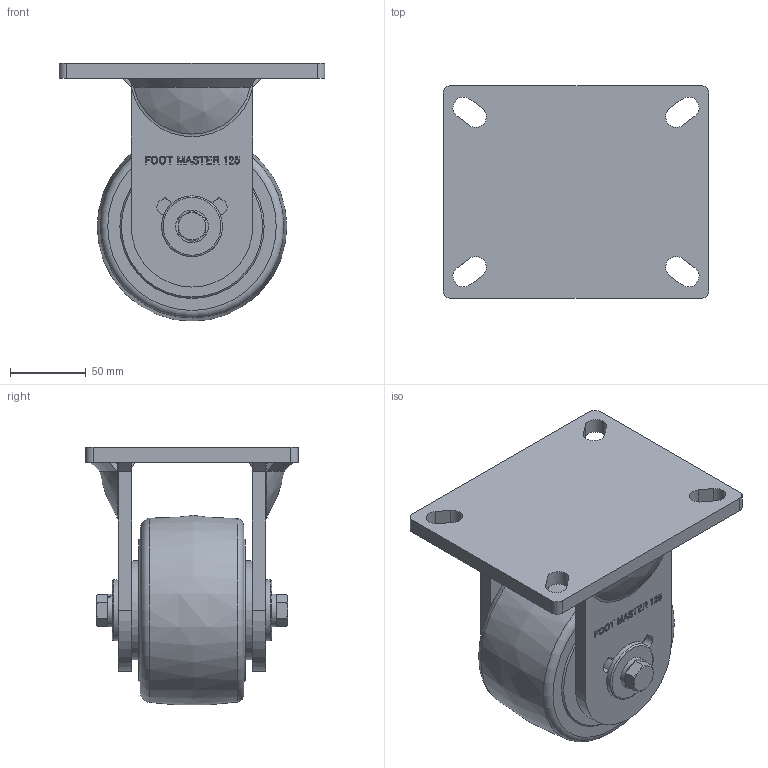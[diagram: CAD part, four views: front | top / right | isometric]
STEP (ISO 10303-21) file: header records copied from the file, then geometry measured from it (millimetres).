
FILE_DESCRIPTION(/* description */ (''),/* implementation_level */ '2;1');
FILE_NAME(/* name */ 'Y:\1.기술연구소\2.연구개발 진행중\133.고하중캐스터 브레이크 타입 변경건_2025.11.03\1.도면\4.홈페이지용 도면\01. 3D\GXT-125 SERIES\GXT-125-STEP\GXT-125-ARF-HUD.stp',/* time_stamp */ '2026-07-22T10:06:22+09:00',/* author */ ('장용하'),/* organization */ (''),/* preprocessor_version */ 'ST-DEVELOPER v18.1',/* originating_system */ 'Autodesk Inventor 2021',/* authorisation */ '');
FILE_SCHEMA (('CONFIG_CONTROL_DESIGN'));
Length unit declared in the file: millimetre
Products named in the file (1): GXT-125-ARF-HUD
Bounding box: 175 x 140 x 169.82 mm (x, y, z)
Volume: 1292924.7 mm3; surface area: 144155.7 mm2
Topology: 1 solids, 1 shells, 611 faces, 1665 edges, 1092 vertices
Faces by surface type: plane 312, bspline 203, cylinder 52, cone 18, sphere 16, torus 10
Full cylindrical faces by diameter (mm): 12 x2, 21.5 x2, 40 x2, 65 x2
Entity records: 19619 total; most frequent: CARTESIAN_POINT 5393, ORIENTED_EDGE 3330, DIRECTION 2266, EDGE_CURVE 1665, VERTEX_POINT 1092, LINE 974, VECTOR 974, EDGE_LOOP 673
